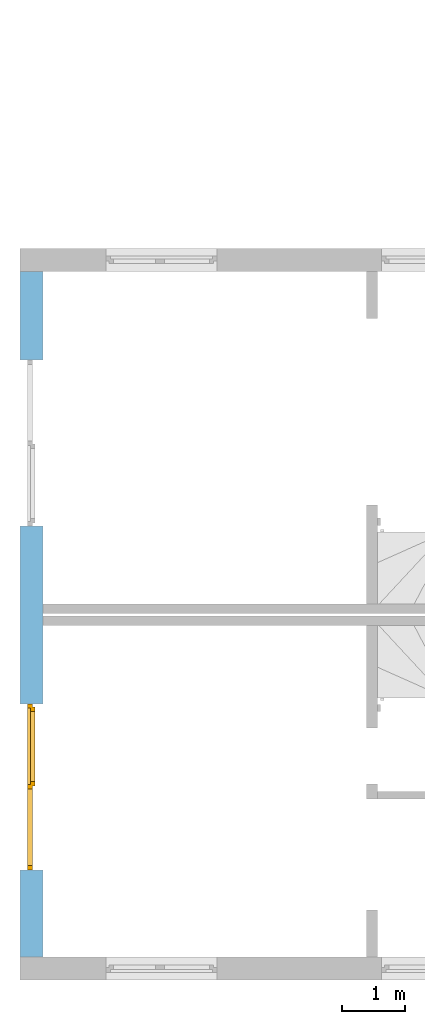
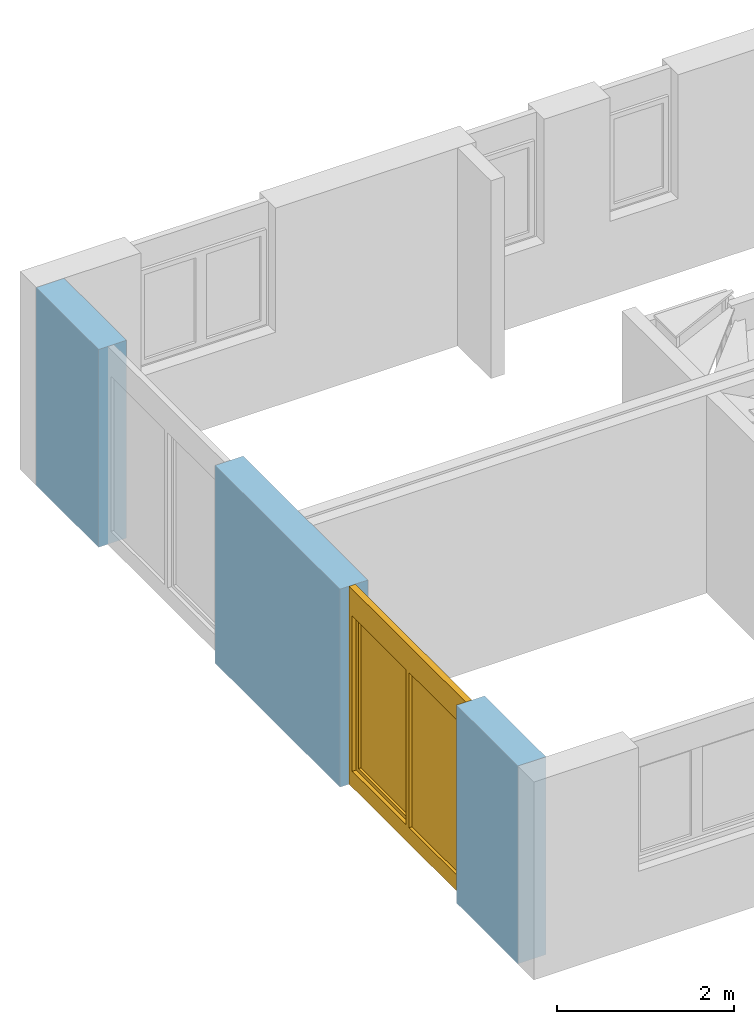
# One storey, part 7 of 41: 1 window, 2 openings, plus 1 element that does not belong to this part.
"""IFC2X3 building model written with IfcOpenShell, lengths in millimetres."""

from ifc_helpers import new_model, entity, si_unit, converted_unit, frame, frame_2d, origin, origin_with_axes, place, context, subcontext, project, spatial, rectangle, extrude, faceted_brep, material, layer, layer_set, layer_usage, type_object, element, fill, save


model = new_model("IFC2X3")

# Units and contexts
model_context = context("Model", 3, precision=1e-05, world=origin())
body_context = subcontext(model_context, "Body", "Model", "MODEL_VIEW")
ifc_project = project(units=[si_unit("LENGTHUNIT", "METRE", prefix="MILLI"), converted_unit("PLANEANGLEUNIT", "DEGREE", entity("IfcPlaneAngleMeasure", 0.0174532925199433), si_unit("PLANEANGLEUNIT", "RADIAN"), dimensions=[0, 0, 0, 0, 0, 0, 0]), si_unit("AREAUNIT", "SQUARE_METRE"), si_unit("VOLUMEUNIT", "CUBIC_METRE")], contexts=[model_context])

# Building, storey
building_placement = place(None, origin())
building = spatial("IfcBuilding", under=ifc_project, at=building_placement, Name="Gebäude", CompositionType="ELEMENT")
storey_placement = place(building_placement, frame((0.0, 0.0, -200.0), z_axis=(0.0, 0.0, 1.0), x_axis=(1.0, 0.0, 0.0)))
storey = spatial("IfcBuildingStorey", under=building, at=storey_placement, Name="EG.- Grundriss", CompositionType="ELEMENT", Elevation=-200.0)

# Wall, openings, window
ifc_material_1 = material(Name="Poroton")
ifc_layer = layer(ifc_material_1, 365.0)
ifc_layer_set = layer_set([ifc_layer])
ifc_layer_usage = layer_usage(ifc_layer_set, "AXIS2", "POSITIVE", 0.0)
wall_placement = place(storey_placement, frame((130992.7928067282, 136524.8877324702, 0.0), z_axis=(0.0, 0.0, 1.0), x_axis=(1.336877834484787e-14, -1.0, 0.0)))
wall = element("IfcWallStandardCase", 1, at=wall_placement, inside=storey, material=ifc_layer_usage, Name="<Unnamed Element>", context=body_context, shape_type="SweptSolid", body=[
    extrude(rectangle(XDim=10884.99999999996, YDim=365.0, at=frame_2d((5442.499999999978, 182.5), x_axis=(1.0, 0.0))), origin_with_axes(), (0.0, 0.0, 1.0), 2730.0),
])
opening_1_placement = place(wall_placement, frame((1409.987487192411, 2.31377272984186e-11, 0.0), z_axis=(0.0, 1.0, 0.0), x_axis=(0.0, 0.0, 1.0)))
element("IfcOpeningElement", 2, at=opening_1_placement, cuts=wall, Name="Fensteröffnung", ObjectType="Opening", context=body_context, shape_type="SweptSolid", body=[
    extrude(rectangle(XDim=2730.0, YDim=2635.0, at=frame_2d((1365.0, 1317.5), x_axis=(1.0, 0.0))), origin_with_axes(), (0.0, 0.0, 1.0), 364.9999999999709),
])
opening_2_placement = place(wall_placement, frame((6864.999999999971, 1.964508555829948e-12, 0.0), z_axis=(0.0, 1.0, 0.0), x_axis=(0.0, 0.0, 1.0)))
opening_2 = element("IfcOpeningElement", 3, at=opening_2_placement, cuts=wall, Name="Fensteröffnung", ObjectType="Opening", context=body_context, shape_type="SweptSolid", body=[
    extrude(rectangle(XDim=2730.0, YDim=2635.0, at=frame_2d((1365.0, 1317.5), x_axis=(1.0, 0.0))), origin_with_axes(), (0.0, 0.0, 1.0), 364.9999999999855),
])
ifc_material_2 = material()
window_style = type_object("IfcWindowStyle", Name="Fenster", ConstructionType="NOTDEFINED", OperationType="USERDEFINED", ParameterTakesPrecedence=False, Sizeable=False)
window_placement = place(opening_2_placement, frame((0.0, 0.0, 0.0), z_axis=(1.0, 0.0, 0.0), x_axis=(0.0, 1.0, 0.0)))
window = element("IfcWindow", 4, at=window_placement, inside=storey, type_object=window_style, material=ifc_material_2, Name="Fenster", OverallHeight=2730.0, OverallWidth=2635.0, context=body_context, shape_type="Brep", body=[
    faceted_brep([(1.064603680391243e-12, 200.0000000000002, 2730.0), (1.064603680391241e-12, 200.0, -2.449293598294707e-15), (70.00000000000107, 199.9999999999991, -2.449293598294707e-15), (70.00000000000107, 199.9999999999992, 2730.0), (0.0, 120.0, 2.449293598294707e-15), (2.26933923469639e-27, 120.0000000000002, 2730.0), (70.0, 119.9999999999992, 2730.0), (70.0, 119.9999999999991, 2.449293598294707e-15), (1.064603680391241e-12, 200.0, -2.449293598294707e-15), (1.064603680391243e-12, 200.0000000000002, 2730.0), (2.26933923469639e-27, 120.0000000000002, 2730.0), (0.0, 120.0, 2.449293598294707e-15), (70.00000000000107, 199.9999999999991, -2.449293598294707e-15), (1.064603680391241e-12, 200.0, -2.449293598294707e-15), (0.0, 120.0, 2.449293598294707e-15), (70.0, 119.9999999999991, 2.449293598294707e-15), (70.00000000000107, 199.9999999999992, 2730.0), (70.00000000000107, 199.9999999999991, -2.449293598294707e-15), (70.0, 119.9999999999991, 2.449293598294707e-15), (70.0, 119.9999999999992, 2730.0), (1.064603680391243e-12, 200.0000000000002, 2730.0), (70.00000000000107, 199.9999999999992, 2730.0), (70.0, 119.9999999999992, 2730.0), (2.26933923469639e-27, 120.0000000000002, 2730.0)], [[[0, 1, 2, 3]], [[4, 5, 6, 7]], [[8, 9, 10, 11]], [[12, 13, 14, 15]], [[16, 17, 18, 19]], [[20, 21, 22, 23]]], orient=[[False], [False], [False], [False], [False], [False]]),
    faceted_brep([(2565.000000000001, 199.999999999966, 2730.0), (2565.000000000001, 199.9999999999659, -2.449293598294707e-15), (2635.000000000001, 199.9999999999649, -2.449293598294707e-15), (2635.000000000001, 199.9999999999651, 2730.0), (2565.0, 119.9999999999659, 2.449293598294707e-15), (2565.0, 119.999999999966, 2730.0), (2635.0, 119.9999999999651, 2730.0), (2635.0, 119.9999999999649, 2.449293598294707e-15), (2565.000000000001, 199.9999999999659, -2.449293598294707e-15), (2565.000000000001, 199.999999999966, 2730.0), (2565.0, 119.999999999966, 2730.0), (2565.0, 119.9999999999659, 2.449293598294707e-15), (2635.000000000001, 199.9999999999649, -2.449293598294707e-15), (2565.000000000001, 199.9999999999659, -2.449293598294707e-15), (2565.0, 119.9999999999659, 2.449293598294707e-15), (2635.0, 119.9999999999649, 2.449293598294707e-15), (2635.000000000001, 199.9999999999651, 2730.0), (2635.000000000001, 199.9999999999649, -2.449293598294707e-15), (2635.0, 119.9999999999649, 2.449293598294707e-15), (2635.0, 119.9999999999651, 2730.0), (2565.000000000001, 199.999999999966, 2730.0), (2635.000000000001, 199.9999999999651, 2730.0), (2635.0, 119.9999999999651, 2730.0), (2565.0, 119.999999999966, 2730.0)], [[[0, 1, 2, 3]], [[4, 5, 6, 7]], [[8, 9, 10, 11]], [[12, 13, 14, 15]], [[16, 17, 18, 19]], [[20, 21, 22, 23]]], orient=[[False], [False], [False], [False], [False], [False]]),
    faceted_brep([(70.00000000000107, 199.9999999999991, 220.0), (70.00000000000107, 199.9999999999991, -2.449293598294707e-15), (2565.000000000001, 199.9999999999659, -2.449293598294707e-15), (2565.000000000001, 199.9999999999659, 220.0), (70.0, 119.9999999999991, 2.449293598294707e-15), (70.0, 119.9999999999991, 220.0), (2565.0, 119.9999999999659, 220.0), (2565.0, 119.9999999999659, 2.449293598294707e-15), (70.00000000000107, 199.9999999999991, -2.449293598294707e-15), (70.00000000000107, 199.9999999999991, 220.0), (70.0, 119.9999999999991, 220.0), (70.0, 119.9999999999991, 2.449293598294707e-15), (2565.000000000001, 199.9999999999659, -2.449293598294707e-15), (70.00000000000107, 199.9999999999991, -2.449293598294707e-15), (70.0, 119.9999999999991, 2.449293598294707e-15), (2565.0, 119.9999999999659, 2.449293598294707e-15), (2565.000000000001, 199.9999999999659, 220.0), (2565.000000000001, 199.9999999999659, -2.449293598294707e-15), (2565.0, 119.9999999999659, 2.449293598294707e-15), (2565.0, 119.9999999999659, 220.0), (70.00000000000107, 199.9999999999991, 220.0), (2565.000000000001, 199.9999999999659, 220.0), (2565.0, 119.9999999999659, 220.0), (70.0, 119.9999999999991, 220.0)], [[[0, 1, 2, 3]], [[4, 5, 6, 7]], [[8, 9, 10, 11]], [[12, 13, 14, 15]], [[16, 17, 18, 19]], [[20, 21, 22, 23]]], orient=[[False], [False], [False], [False], [False], [False]]),
    faceted_brep([(70.00000000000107, 199.9999999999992, 2730.0), (70.00000000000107, 199.9999999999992, 2360.0), (2565.000000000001, 199.999999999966, 2360.0), (2565.000000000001, 199.999999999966, 2730.0), (70.0, 119.9999999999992, 2360.0), (70.0, 119.9999999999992, 2730.0), (2565.0, 119.999999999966, 2730.0), (2565.0, 119.999999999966, 2360.0), (70.00000000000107, 199.9999999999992, 2360.0), (70.00000000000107, 199.9999999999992, 2730.0), (70.0, 119.9999999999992, 2730.0), (70.0, 119.9999999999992, 2360.0), (2565.000000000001, 199.999999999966, 2360.0), (70.00000000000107, 199.9999999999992, 2360.0), (70.0, 119.9999999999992, 2360.0), (2565.0, 119.999999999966, 2360.0), (2565.000000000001, 199.999999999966, 2730.0), (2565.000000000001, 199.999999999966, 2360.0), (2565.0, 119.999999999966, 2360.0), (2565.0, 119.999999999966, 2730.0), (70.00000000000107, 199.9999999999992, 2730.0), (2565.000000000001, 199.999999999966, 2730.0), (2565.0, 119.999999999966, 2730.0), (70.0, 119.9999999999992, 2730.0)], [[[0, 1, 2, 3]], [[4, 5, 6, 7]], [[8, 9, 10, 11]], [[12, 13, 14, 15]], [[16, 17, 18, 19]], [[20, 21, 22, 23]]], orient=[[False], [False], [False], [False], [False], [False]]),
    faceted_brep([(1282.500000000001, 199.9999999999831, 2360.0), (1282.500000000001, 199.999999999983, 220.0), (1352.500000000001, 199.999999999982, 220.0), (1352.500000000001, 199.9999999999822, 2360.0), (1282.5, 119.999999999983, 220.0), (1282.5, 119.9999999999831, 2360.0), (1352.5, 119.9999999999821, 2360.0), (1352.5, 119.999999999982, 220.0), (1282.500000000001, 199.999999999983, 220.0), (1282.500000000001, 199.9999999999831, 2360.0), (1282.5, 119.9999999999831, 2360.0), (1282.5, 119.999999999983, 220.0), (1352.500000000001, 199.999999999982, 220.0), (1282.500000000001, 199.999999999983, 220.0), (1282.5, 119.999999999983, 220.0), (1352.5, 119.999999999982, 220.0), (1352.500000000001, 199.9999999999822, 2360.0), (1352.500000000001, 199.999999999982, 220.0), (1352.5, 119.999999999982, 220.0), (1352.5, 119.9999999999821, 2360.0), (1282.500000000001, 199.9999999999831, 2360.0), (1352.500000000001, 199.9999999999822, 2360.0), (1352.5, 119.9999999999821, 2360.0), (1282.5, 119.9999999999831, 2360.0)], [[[0, 1, 2, 3]], [[4, 5, 6, 7]], [[8, 9, 10, 11]], [[12, 13, 14, 15]], [[16, 17, 18, 19]], [[20, 21, 22, 23]]], orient=[[False], [False], [False], [False], [False], [False]]),
    faceted_brep([(50.0000000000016, 239.9999999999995, 2380.0), (50.0000000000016, 239.9999999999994, 200.0), (120.0000000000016, 239.9999999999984, 200.0), (120.0000000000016, 239.9999999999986, 2380.0), (50.00000000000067, 169.9999999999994, 200.0), (50.00000000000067, 169.9999999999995, 2380.0), (120.0000000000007, 169.9999999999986, 2380.0), (120.0000000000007, 169.9999999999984, 200.0), (50.0000000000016, 239.9999999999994, 200.0), (50.0000000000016, 239.9999999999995, 2380.0), (50.00000000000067, 169.9999999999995, 2380.0), (50.00000000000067, 169.9999999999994, 200.0), (120.0000000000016, 239.9999999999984, 200.0), (50.0000000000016, 239.9999999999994, 200.0), (50.00000000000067, 169.9999999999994, 200.0), (120.0000000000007, 169.9999999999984, 200.0), (120.0000000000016, 239.9999999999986, 2380.0), (120.0000000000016, 239.9999999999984, 200.0), (120.0000000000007, 169.9999999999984, 200.0), (120.0000000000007, 169.9999999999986, 2380.0), (50.0000000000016, 239.9999999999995, 2380.0), (120.0000000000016, 239.9999999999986, 2380.0), (120.0000000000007, 169.9999999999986, 2380.0), (50.00000000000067, 169.9999999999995, 2380.0)], [[[0, 1, 2, 3]], [[4, 5, 6, 7]], [[8, 9, 10, 11]], [[12, 13, 14, 15]], [[16, 17, 18, 19]], [[20, 21, 22, 23]]], orient=[[False], [False], [False], [False], [False], [False]]),
    faceted_brep([(1232.500000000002, 239.9999999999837, 2380.0), (1232.500000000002, 239.9999999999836, 200.0), (1302.500000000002, 239.9999999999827, 200.0), (1302.500000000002, 239.9999999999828, 2380.0), (1232.500000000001, 169.9999999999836, 200.0), (1232.500000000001, 169.9999999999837, 2380.0), (1302.500000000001, 169.9999999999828, 2380.0), (1302.500000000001, 169.9999999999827, 200.0), (1232.500000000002, 239.9999999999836, 200.0), (1232.500000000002, 239.9999999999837, 2380.0), (1232.500000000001, 169.9999999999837, 2380.0), (1232.500000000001, 169.9999999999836, 200.0), (1302.500000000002, 239.9999999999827, 200.0), (1232.500000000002, 239.9999999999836, 200.0), (1232.500000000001, 169.9999999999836, 200.0), (1302.500000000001, 169.9999999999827, 200.0), (1302.500000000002, 239.9999999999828, 2380.0), (1302.500000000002, 239.9999999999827, 200.0), (1302.500000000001, 169.9999999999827, 200.0), (1302.500000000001, 169.9999999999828, 2380.0), (1232.500000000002, 239.9999999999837, 2380.0), (1302.500000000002, 239.9999999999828, 2380.0), (1302.500000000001, 169.9999999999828, 2380.0), (1232.500000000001, 169.9999999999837, 2380.0)], [[[0, 1, 2, 3]], [[4, 5, 6, 7]], [[8, 9, 10, 11]], [[12, 13, 14, 15]], [[16, 17, 18, 19]], [[20, 21, 22, 23]]], orient=[[False], [False], [False], [False], [False], [False]]),
    faceted_brep([(120.0000000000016, 239.9999999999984, 270.0), (120.0000000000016, 239.9999999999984, 200.0), (1232.500000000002, 239.9999999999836, 200.0), (1232.500000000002, 239.9999999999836, 270.0), (120.0000000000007, 169.9999999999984, 200.0), (120.0000000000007, 169.9999999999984, 270.0), (1232.500000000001, 169.9999999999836, 270.0), (1232.500000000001, 169.9999999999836, 200.0), (120.0000000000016, 239.9999999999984, 200.0), (120.0000000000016, 239.9999999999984, 270.0), (120.0000000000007, 169.9999999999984, 270.0), (120.0000000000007, 169.9999999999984, 200.0), (1232.500000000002, 239.9999999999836, 200.0), (120.0000000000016, 239.9999999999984, 200.0), (120.0000000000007, 169.9999999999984, 200.0), (1232.500000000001, 169.9999999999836, 200.0), (1232.500000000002, 239.9999999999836, 270.0), (1232.500000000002, 239.9999999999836, 200.0), (1232.500000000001, 169.9999999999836, 200.0), (1232.500000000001, 169.9999999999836, 270.0), (120.0000000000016, 239.9999999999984, 270.0), (1232.500000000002, 239.9999999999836, 270.0), (1232.500000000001, 169.9999999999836, 270.0), (120.0000000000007, 169.9999999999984, 270.0)], [[[0, 1, 2, 3]], [[4, 5, 6, 7]], [[8, 9, 10, 11]], [[12, 13, 14, 15]], [[16, 17, 18, 19]], [[20, 21, 22, 23]]], orient=[[False], [False], [False], [False], [False], [False]]),
    faceted_brep([(120.0000000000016, 239.9999999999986, 2380.0), (120.0000000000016, 239.9999999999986, 2310.0), (1232.500000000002, 239.9999999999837, 2310.0), (1232.500000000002, 239.9999999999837, 2380.0), (120.0000000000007, 169.9999999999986, 2310.0), (120.0000000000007, 169.9999999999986, 2380.0), (1232.500000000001, 169.9999999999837, 2380.0), (1232.500000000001, 169.9999999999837, 2310.0), (120.0000000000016, 239.9999999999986, 2310.0), (120.0000000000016, 239.9999999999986, 2380.0), (120.0000000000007, 169.9999999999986, 2380.0), (120.0000000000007, 169.9999999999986, 2310.0), (1232.500000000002, 239.9999999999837, 2310.0), (120.0000000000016, 239.9999999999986, 2310.0), (120.0000000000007, 169.9999999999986, 2310.0), (1232.500000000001, 169.9999999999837, 2310.0), (1232.500000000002, 239.9999999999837, 2380.0), (1232.500000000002, 239.9999999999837, 2310.0), (1232.500000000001, 169.9999999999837, 2310.0), (1232.500000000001, 169.9999999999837, 2380.0), (120.0000000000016, 239.9999999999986, 2380.0), (1232.500000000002, 239.9999999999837, 2380.0), (1232.500000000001, 169.9999999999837, 2380.0), (120.0000000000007, 169.9999999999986, 2380.0)], [[[0, 1, 2, 3]], [[4, 5, 6, 7]], [[8, 9, 10, 11]], [[12, 13, 14, 15]], [[16, 17, 18, 19]], [[20, 21, 22, 23]]], orient=[[False], [False], [False], [False], [False], [False]]),
    faceted_brep([(1352.500000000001, 159.999999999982, 220.0), (2565.000000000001, 159.9999999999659, 220.0), (2565.000000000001, 159.999999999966, 2360.0), (1352.500000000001, 159.9999999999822, 2360.0), (1352.500000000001, 158.999999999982, 220.0), (1352.500000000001, 158.9999999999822, 2360.0), (2565.000000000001, 158.999999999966, 2360.0), (2565.000000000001, 158.9999999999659, 220.0), (1352.500000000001, 159.999999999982, 220.0), (1352.500000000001, 158.999999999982, 220.0), (2565.000000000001, 158.9999999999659, 220.0), (2565.000000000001, 159.9999999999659, 220.0), (2565.000000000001, 159.9999999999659, 220.0), (2565.000000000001, 158.9999999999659, 220.0), (2565.000000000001, 158.999999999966, 2360.0), (2565.000000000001, 159.999999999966, 2360.0), (2565.000000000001, 159.999999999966, 2360.0), (2565.000000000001, 158.999999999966, 2360.0), (1352.500000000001, 158.9999999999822, 2360.0), (1352.500000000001, 159.9999999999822, 2360.0), (1352.500000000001, 159.9999999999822, 2360.0), (1352.500000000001, 158.9999999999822, 2360.0), (1352.500000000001, 158.999999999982, 220.0), (1352.500000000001, 159.999999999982, 220.0)], [[[0, 1, 2, 3]], [[4, 5, 6, 7]], [[8, 9, 10, 11]], [[12, 13, 14, 15]], [[16, 17, 18, 19]], [[20, 21, 22, 23]]], orient=[[False], [False], [False], [False], [False], [False]]),
    faceted_brep([(120.0000000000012, 204.9999999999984, 270.0), (1232.500000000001, 204.9999999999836, 270.0), (1232.500000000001, 204.9999999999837, 2310.0), (120.0000000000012, 204.9999999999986, 2310.0), (120.0000000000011, 203.9999999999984, 270.0), (120.0000000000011, 203.9999999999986, 2310.0), (1232.500000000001, 203.9999999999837, 2310.0), (1232.500000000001, 203.9999999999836, 270.0), (120.0000000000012, 204.9999999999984, 270.0), (120.0000000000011, 203.9999999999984, 270.0), (1232.500000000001, 203.9999999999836, 270.0), (1232.500000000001, 204.9999999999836, 270.0), (1232.500000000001, 204.9999999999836, 270.0), (1232.500000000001, 203.9999999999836, 270.0), (1232.500000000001, 203.9999999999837, 2310.0), (1232.500000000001, 204.9999999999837, 2310.0), (1232.500000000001, 204.9999999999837, 2310.0), (1232.500000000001, 203.9999999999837, 2310.0), (120.0000000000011, 203.9999999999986, 2310.0), (120.0000000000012, 204.9999999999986, 2310.0), (120.0000000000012, 204.9999999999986, 2310.0), (120.0000000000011, 203.9999999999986, 2310.0), (120.0000000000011, 203.9999999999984, 270.0), (120.0000000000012, 204.9999999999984, 270.0)], [[[0, 1, 2, 3]], [[4, 5, 6, 7]], [[8, 9, 10, 11]], [[12, 13, 14, 15]], [[16, 17, 18, 19]], [[20, 21, 22, 23]]], orient=[[False], [False], [False], [False], [False], [False]]),
])
fill(opening_2, window)

save(model, "model.ifc")
